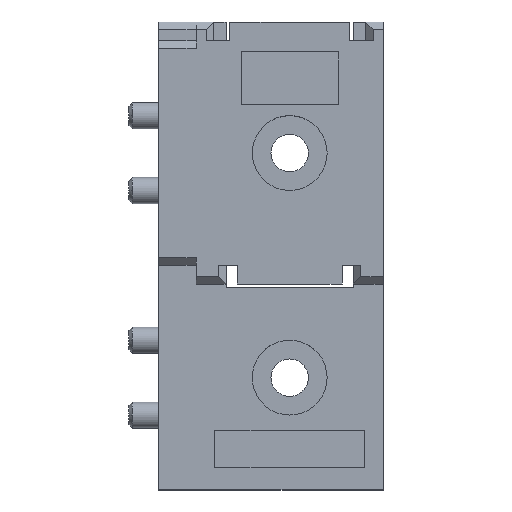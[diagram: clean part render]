
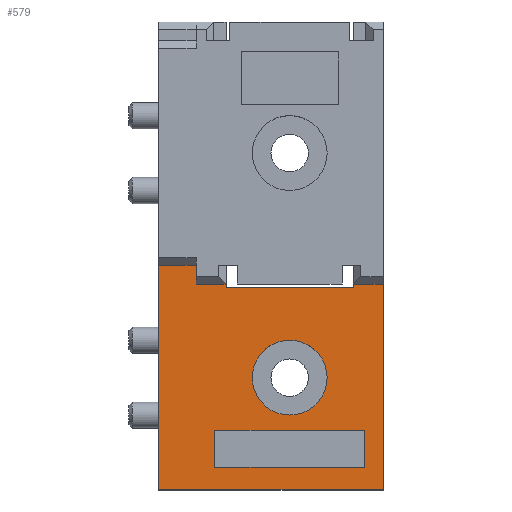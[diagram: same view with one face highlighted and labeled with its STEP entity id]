
A CAD part, top view. The second image highlights one B-rep face of the part: STEP entity #579.
In plain terms, the highlighted planar face has unit normal (0, 0, 1).
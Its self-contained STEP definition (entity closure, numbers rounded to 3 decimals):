
#133 = VERTEX_POINT ( 'NONE', #1205 ) ;
#135 = EDGE_CURVE ( 'NONE', #175, #133, #1204, .T. ) ;
#175 = VERTEX_POINT ( 'NONE', #1434 ) ;
#284 = EDGE_LOOP ( 'NONE', ( #582, #581, #596, #608 ) ) ;
#286 = EDGE_CURVE ( 'NONE', #343, #330, #2969, .T. ) ;
#287 = EDGE_CURVE ( 'NONE', #573, #343, #2919, .T. ) ;
#288 = VERTEX_POINT ( 'NONE', #2922 ) ;
#289 = ORIENTED_EDGE ( 'NONE', *, *, #604, .T. ) ;
#290 = VERTEX_POINT ( 'NONE', #2914 ) ;
#291 = VERTEX_POINT ( 'NONE', #2942 ) ;
#292 = EDGE_CURVE ( 'NONE', #290, #288, #2941, .T. ) ;
#293 = EDGE_LOOP ( 'NONE', ( #600, #547 ) ) ;
#294 = ORIENTED_EDGE ( 'NONE', *, *, #295, .T. ) ;
#295 = EDGE_CURVE ( 'NONE', #288, #291, #2932, .T. ) ;
#297 = ORIENTED_EDGE ( 'NONE', *, *, #543, .F. ) ;
#298 = EDGE_CURVE ( 'NONE', #572, #291, #2921, .T. ) ;
#330 = VERTEX_POINT ( 'NONE', #2381 ) ;
#343 = VERTEX_POINT ( 'NONE', #2441 ) ;
#449 = VERTEX_POINT ( 'NONE', #2606 ) ;
#456 = EDGE_CURVE ( 'NONE', #449, #459, #2481, .T. ) ;
#459 = VERTEX_POINT ( 'NONE', #2831 ) ;
#542 = ORIENTED_EDGE ( 'NONE', *, *, #298, .F. ) ;
#543 = EDGE_CURVE ( 'NONE', #605, #572, #2809, .T. ) ;
#544 = EDGE_CURVE ( 'NONE', #133, #175, #2791, .T. ) ;
#547 = ORIENTED_EDGE ( 'NONE', *, *, #135, .F. ) ;
#572 = VERTEX_POINT ( 'NONE', #2713 ) ;
#573 = VERTEX_POINT ( 'NONE', #2715 ) ;
#574 = ORIENTED_EDGE ( 'NONE', *, *, #575, .T. ) ;
#575 = EDGE_CURVE ( 'NONE', #459, #573, #2705, .T. ) ;
#579 = ADVANCED_FACE ( 'NONE', ( #2697, #2714, #2706 ), #2699, .T. ) ;
#580 = VERTEX_POINT ( 'NONE', #2838 ) ;
#581 = ORIENTED_EDGE ( 'NONE', *, *, #583, .F. ) ;
#582 = ORIENTED_EDGE ( 'NONE', *, *, #584, .F. ) ;
#583 = EDGE_CURVE ( 'NONE', #585, #615, #2393, .T. ) ;
#584 = EDGE_CURVE ( 'NONE', #615, #580, #2340, .T. ) ;
#585 = VERTEX_POINT ( 'NONE', #2938 ) ;
#586 = VERTEX_POINT ( 'NONE', #2937 ) ;
#593 = ORIENTED_EDGE ( 'NONE', *, *, #286, .T. ) ;
#596 = ORIENTED_EDGE ( 'NONE', *, *, #603, .F. ) ;
#600 = ORIENTED_EDGE ( 'NONE', *, *, #544, .F. ) ;
#601 = EDGE_LOOP ( 'NONE', ( #610, #611, #574, #612, #593, #289, #609, #294, #542, #297 ) ) ;
#603 = EDGE_CURVE ( 'NONE', #586, #585, #1533, .T. ) ;
#604 = EDGE_CURVE ( 'NONE', #330, #290, #1586, .T. ) ;
#605 = VERTEX_POINT ( 'NONE', #1557 ) ;
#606 = EDGE_CURVE ( 'NONE', #580, #586, #1515, .T. ) ;
#608 = ORIENTED_EDGE ( 'NONE', *, *, #606, .F. ) ;
#609 = ORIENTED_EDGE ( 'NONE', *, *, #292, .T. ) ;
#610 = ORIENTED_EDGE ( 'NONE', *, *, #613, .F. ) ;
#611 = ORIENTED_EDGE ( 'NONE', *, *, #456, .T. ) ;
#612 = ORIENTED_EDGE ( 'NONE', *, *, #287, .T. ) ;
#613 = EDGE_CURVE ( 'NONE', #449, #605, #1472, .T. ) ;
#615 = VERTEX_POINT ( 'NONE', #1494 ) ;
#1189 = CARTESIAN_POINT ( 'NONE',  ( 0., -30., 6. ) ) ;
#1204 = CIRCLE ( 'NONE', #1344, 5. ) ;
#1205 = CARTESIAN_POINT ( 'NONE',  ( 5., -30., 6. ) ) ;
#1342 = DIRECTION ( 'NONE',  ( 1., 0., 0. ) ) ;
#1343 = DIRECTION ( 'NONE',  ( 0., 0., 1. ) ) ;
#1344 = AXIS2_PLACEMENT_3D ( 'NONE', #1189, #1343, #1342 ) ;
#1434 = CARTESIAN_POINT ( 'NONE',  ( -5., -30., 6. ) ) ;
#1468 = DIRECTION ( 'NONE',  ( 0., 1., 0. ) ) ;
#1469 = CARTESIAN_POINT ( 'NONE',  ( -17.5, -45., 6. ) ) ;
#1470 = VECTOR ( 'NONE', #1548, 1000. ) ;
#1471 = CARTESIAN_POINT ( 'NONE',  ( -8.5, -45., 6. ) ) ;
#1472 = LINE ( 'NONE', #1471, #1470 ) ;
#1494 = CARTESIAN_POINT ( 'NONE',  ( -10., -37., 6. ) ) ;
#1514 = CARTESIAN_POINT ( 'NONE',  ( -10., -42., 6. ) ) ;
#1515 = LINE ( 'NONE', #1514, #1587 ) ;
#1528 = DIRECTION ( 'NONE',  ( 1., 0., 0. ) ) ;
#1533 = LINE ( 'NONE', #1565, #1538 ) ;
#1538 = VECTOR ( 'NONE', #1468, 1000. ) ;
#1548 = DIRECTION ( 'NONE',  ( 0., -1., 0. ) ) ;
#1556 = VECTOR ( 'NONE', #1575, 1000. ) ;
#1557 = CARTESIAN_POINT ( 'NONE',  ( -8.5, -18., 6. ) ) ;
#1565 = CARTESIAN_POINT ( 'NONE',  ( 10., -37., 6. ) ) ;
#1575 = DIRECTION ( 'NONE',  ( 1., 0., 0. ) ) ;
#1586 = LINE ( 'NONE', #1469, #1556 ) ;
#1587 = VECTOR ( 'NONE', #1528, 1000. ) ;
#2329 = DIRECTION ( 'NONE',  ( -1., 0., 0. ) ) ;
#2337 = CARTESIAN_POINT ( 'NONE',  ( -10., -37., 6. ) ) ;
#2338 = DIRECTION ( 'NONE',  ( 0., -1., 0. ) ) ;
#2339 = VECTOR ( 'NONE', #2338, 1000. ) ;
#2340 = LINE ( 'NONE', #2337, #2339 ) ;
#2381 = CARTESIAN_POINT ( 'NONE',  ( -17.5, -45., 6. ) ) ;
#2385 = DIRECTION ( 'NONE',  ( -1., 0., 0. ) ) ;
#2386 = CARTESIAN_POINT ( 'NONE',  ( -10., -37., 6. ) ) ;
#2390 = VECTOR ( 'NONE', #2385, 1000. ) ;
#2393 = LINE ( 'NONE', #2386, #2390 ) ;
#2441 = CARTESIAN_POINT ( 'NONE',  ( -17.5, -15., 6. ) ) ;
#2479 = VECTOR ( 'NONE', #2329, 1000. ) ;
#2480 = CARTESIAN_POINT ( 'NONE',  ( -17.5, -17.5, 6. ) ) ;
#2481 = LINE ( 'NONE', #2480, #2479 ) ;
#2606 = CARTESIAN_POINT ( 'NONE',  ( -8.5, -17.5, 6. ) ) ;
#2693 = CARTESIAN_POINT ( 'NONE',  ( -17.5, -45., 6. ) ) ;
#2694 = AXIS2_PLACEMENT_3D ( 'NONE', #2693, #2708, #2707 ) ;
#2696 = VECTOR ( 'NONE', #2773, 1000. ) ;
#2697 = FACE_BOUND ( 'NONE', #284, .T. ) ;
#2699 = PLANE ( 'NONE',  #2694 ) ;
#2705 = LINE ( 'NONE', #2774, #2696 ) ;
#2706 = FACE_BOUND ( 'NONE', #293, .T. ) ;
#2707 = DIRECTION ( 'NONE',  ( 1., 0., 0. ) ) ;
#2708 = DIRECTION ( 'NONE',  ( 0., 0., 1. ) ) ;
#2713 = CARTESIAN_POINT ( 'NONE',  ( 8.5, -18., 6. ) ) ;
#2714 = FACE_OUTER_BOUND ( 'NONE', #601, .T. ) ;
#2715 = CARTESIAN_POINT ( 'NONE',  ( -12.5, -15., 6. ) ) ;
#2743 = DIRECTION ( 'NONE',  ( 1., 0., 0. ) ) ;
#2744 = DIRECTION ( 'NONE',  ( 0., 0., 1. ) ) ;
#2749 = DIRECTION ( 'NONE',  ( 1., 0., 0. ) ) ;
#2750 = VECTOR ( 'NONE', #2749, 1000. ) ;
#2773 = DIRECTION ( 'NONE',  ( 0., 1., 0. ) ) ;
#2774 = CARTESIAN_POINT ( 'NONE',  ( -12.5, -45., 6. ) ) ;
#2791 = CIRCLE ( 'NONE', #2792, 5. ) ;
#2792 = AXIS2_PLACEMENT_3D ( 'NONE', #2794, #2744, #2743 ) ;
#2794 = CARTESIAN_POINT ( 'NONE',  ( 0., -30., 6. ) ) ;
#2805 = CARTESIAN_POINT ( 'NONE',  ( -17.5, -18., 6. ) ) ;
#2809 = LINE ( 'NONE', #2805, #2750 ) ;
#2831 = CARTESIAN_POINT ( 'NONE',  ( -12.5, -17.5, 6. ) ) ;
#2838 = CARTESIAN_POINT ( 'NONE',  ( -10., -42., 6. ) ) ;
#2839 = DIRECTION ( 'NONE',  ( 0., 1., 0. ) ) ;
#2841 = VECTOR ( 'NONE', #2839, 1000. ) ;
#2842 = DIRECTION ( 'NONE',  ( -1., 0., 0. ) ) ;
#2912 = DIRECTION ( 'NONE',  ( 0., -1., 0. ) ) ;
#2913 = VECTOR ( 'NONE', #2912, 1000. ) ;
#2914 = CARTESIAN_POINT ( 'NONE',  ( 12.5, -45., 6. ) ) ;
#2918 = CARTESIAN_POINT ( 'NONE',  ( -17.5, -15., 6. ) ) ;
#2919 = LINE ( 'NONE', #2918, #2944 ) ;
#2920 = CARTESIAN_POINT ( 'NONE',  ( 8.5, -45., 6. ) ) ;
#2921 = LINE ( 'NONE', #2920, #2841 ) ;
#2922 = CARTESIAN_POINT ( 'NONE',  ( 12.5, -17.5, 6. ) ) ;
#2930 = VECTOR ( 'NONE', #2842, 1000. ) ;
#2931 = CARTESIAN_POINT ( 'NONE',  ( -17.5, -17.5, 6. ) ) ;
#2932 = LINE ( 'NONE', #2931, #2930 ) ;
#2934 = DIRECTION ( 'NONE',  ( 0., 1., 0. ) ) ;
#2935 = VECTOR ( 'NONE', #2934, 1000. ) ;
#2937 = CARTESIAN_POINT ( 'NONE',  ( 10., -42., 6. ) ) ;
#2938 = CARTESIAN_POINT ( 'NONE',  ( 10., -37., 6. ) ) ;
#2940 = CARTESIAN_POINT ( 'NONE',  ( 12.5, 17.5, 6. ) ) ;
#2941 = LINE ( 'NONE', #2940, #2935 ) ;
#2942 = CARTESIAN_POINT ( 'NONE',  ( 8.5, -17.5, 6. ) ) ;
#2943 = DIRECTION ( 'NONE',  ( -1., 0., 0. ) ) ;
#2944 = VECTOR ( 'NONE', #2943, 1000. ) ;
#2968 = CARTESIAN_POINT ( 'NONE',  ( -17.5, 17.5, 6. ) ) ;
#2969 = LINE ( 'NONE', #2968, #2913 ) ;
